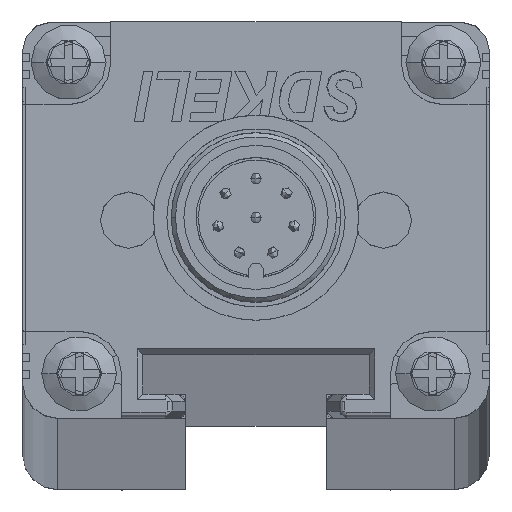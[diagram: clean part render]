
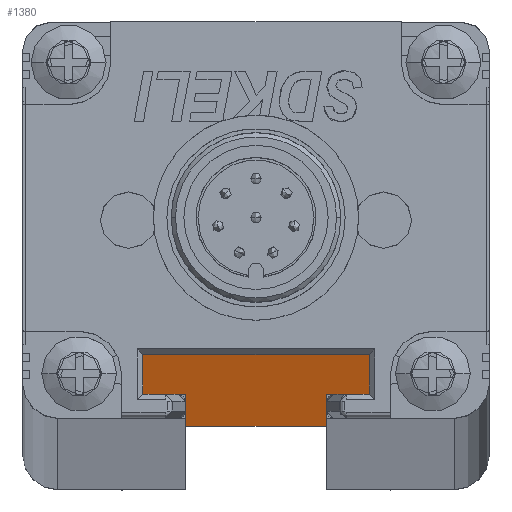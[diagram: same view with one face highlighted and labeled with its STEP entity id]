
A CAD part, top view. The second image highlights one B-rep face of the part: STEP entity #1380.
In plain terms, the highlighted planar face has unit normal (0, -1, 0).
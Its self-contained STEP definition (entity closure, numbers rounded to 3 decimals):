
#2=DIRECTION('',(1.,0.,0.));
#3=VECTOR('',#2,19.608);
#4=CARTESIAN_POINT('',(-9.804,-8.928,0.));
#5=LINE('',#4,#3);
#310=DIRECTION('',(0.,0.,1.));
#311=VECTOR('',#310,2880.);
#312=CARTESIAN_POINT('',(-9.804,-8.928,0.));
#313=LINE('',#312,#311);
#602=DIRECTION('',(0.,0.,1.));
#603=VECTOR('',#602,2880.);
#604=CARTESIAN_POINT('',(9.804,-8.928,0.));
#605=LINE('',#604,#603);
#606=DIRECTION('',(1.,0.,0.));
#607=VECTOR('',#606,19.608);
#608=CARTESIAN_POINT('',(-9.804,-8.928,2880.));
#609=LINE('',#608,#607);
#914=CARTESIAN_POINT('',(-9.804,-8.928,0.));
#915=CARTESIAN_POINT('',(9.804,-8.928,0.));
#916=VERTEX_POINT('',#914);
#917=VERTEX_POINT('',#915);
#1062=CARTESIAN_POINT('',(-9.804,-8.928,2880.));
#1063=CARTESIAN_POINT('',(9.804,-8.928,2880.));
#1064=VERTEX_POINT('',#1062);
#1065=VERTEX_POINT('',#1063);
#1366=CARTESIAN_POINT('',(-9.804,-8.928,0.));
#1367=DIRECTION('',(0.,-1.,0.));
#1368=DIRECTION('',(1.,0.,0.));
#1369=AXIS2_PLACEMENT_3D('',#1366,#1367,#1368);
#1370=PLANE('',#1369);
#1371=ORIENTED_EDGE('',*,*,#1215,.F.);
#1373=ORIENTED_EDGE('',*,*,#1372,.T.);
#1375=ORIENTED_EDGE('',*,*,#1374,.T.);
#1377=ORIENTED_EDGE('',*,*,#1376,.F.);
#1378=EDGE_LOOP('',(#1371,#1373,#1375,#1377));
#1379=FACE_OUTER_BOUND('',#1378,.F.);
#1380=ADVANCED_FACE('',(#1379),#1370,.T.);
#1215=EDGE_CURVE('',#916,#917,#5,.T.);
#1372=EDGE_CURVE('',#916,#1064,#313,.T.);
#1374=EDGE_CURVE('',#1064,#1065,#609,.T.);
#1376=EDGE_CURVE('',#917,#1065,#605,.T.);
